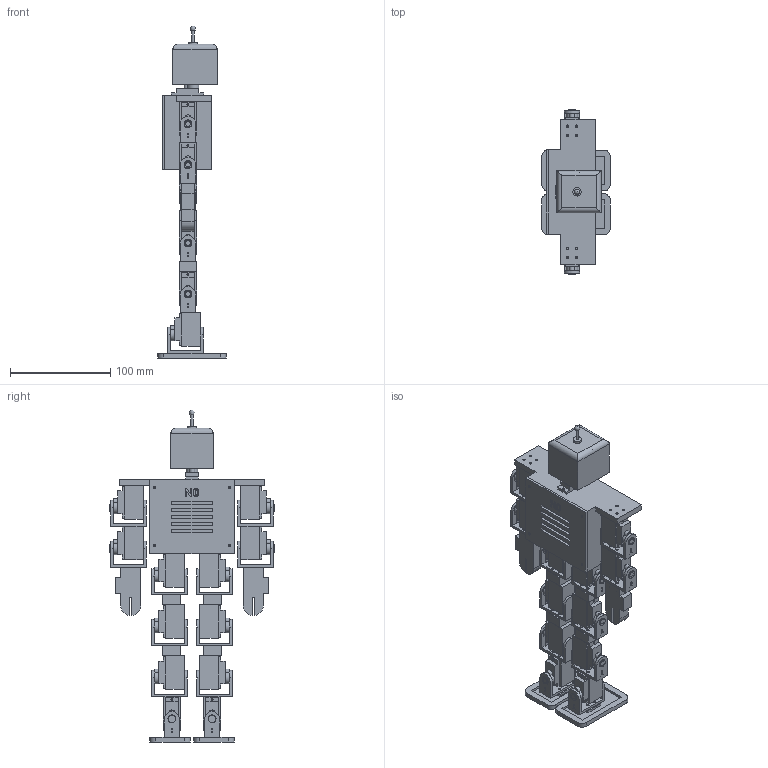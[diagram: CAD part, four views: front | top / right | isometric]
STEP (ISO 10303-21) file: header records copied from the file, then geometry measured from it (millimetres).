
FILE_DESCRIPTION(('FreeCAD Model'),'2;1');
FILE_NAME('Open CASCADE Shape Model','2026-11-08T20:38:39',('FreeCAD'),( 'FreeCAD'),'Open CASCADE STEP processor 7.8','FreeCAD','Unknown');
FILE_SCHEMA(('AUTOMOTIVE_DESIGN { 1 0 10303 214 1 1 1 1 }'));
Length unit declared in the file: millimetre
Products named in the file (1): Open CASCADE STEP translator 7.8 15
Bounding box: 68 x 163.6 x 330.6 mm (x, y, z)
Volume: 363711.2 mm3; surface area: 232378.2 mm2
Topology: 63 solids, 63 shells, 1421 faces, 3574 edges, 2404 vertices
Faces by surface type: plane 965, cylinder 435, extrusion 20, sphere 1
Full cylindrical faces by diameter (mm): 1 x26, 1.6 x124, 2 x26, 2.3 x80, 2.4 x1, 4.4 x4, 4.8 x13, 5 x12, 5.4 x12, 6 x1, 6.4 x1, 7.4 x13, 7.9 x13, 8.4 x1
Entity records: 43702 total; most frequent: CARTESIAN_POINT 7750, DIRECTION 7373, ORIENTED_EDGE 7146, EDGE_CURVE 3573, VECTOR 2537, LINE 2517, AXIS2_PLACEMENT_3D 2418, VERTEX_POINT 2404
